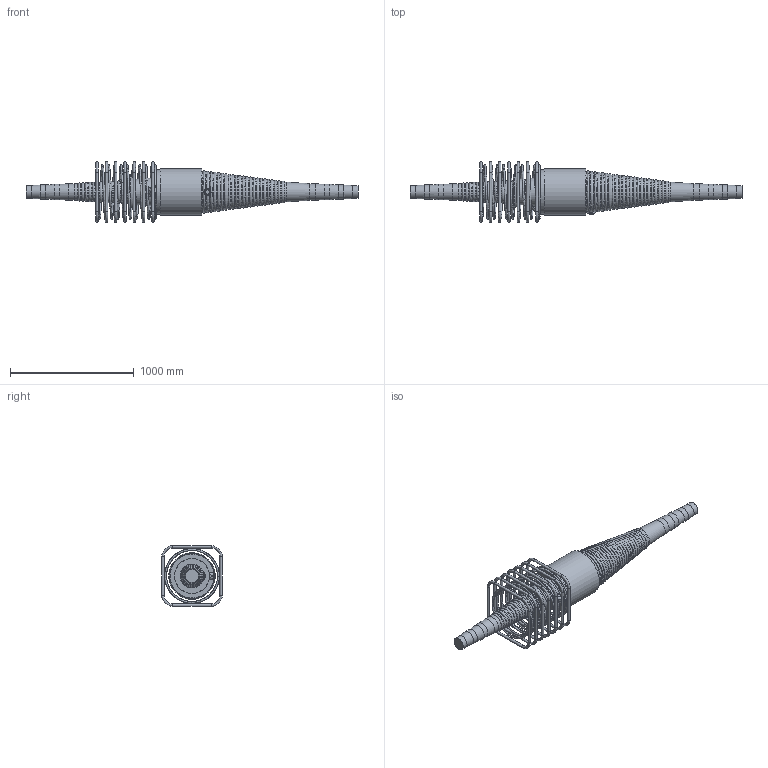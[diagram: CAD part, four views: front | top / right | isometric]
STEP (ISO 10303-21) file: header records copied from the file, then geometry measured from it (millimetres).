
FILE_DESCRIPTION(/* description */ (''),/* implementation_level */ '2;1');
FILE_NAME(/* name */ 'Z:\04 Publications\05 Give-out\BBR\6_3D_Models\BBR VT CONA CMI\BBR VT CONA CMI BT\02706\BBR VT CONA CMI BT 2706_Coupler H Assembly_CS-34,28.stp',/* time_stamp */ '2017-05-05T10:35:52+02:00',/* author */ ('IP'),/* organization */ (''),/* preprocessor_version */ 'ST-DEVELOPER v16.1',/* originating_system */ 'Autodesk Inventor 2016',/* authorisation */ '');
FILE_SCHEMA (('AUTOMOTIVE_DESIGN { 1 0 10303 214 3 1 1 }'));
Products named in the file (1): BBR VT CONA CMI BT 2706_Coupler H Assembly_CS-34,28
Bounding box: 2678.22 x 490 x 490 mm (x, y, z)
Volume: 111565756 mm3; surface area: 3374775.5 mm2
Topology: 9 solids, 9 shells, 1007 faces, 2535 edges, 1595 vertices
Faces by surface type: bspline 403, plane 265, torus 170, cylinder 118, cone 41, sphere 10
Full cylindrical faces by diameter (mm): 20 x28, 34 x1, 34.089 x1, 57 x1, 57.089 x1, 104 x2, 114 x2, 124 x2, 134 x2, 208 x1, 279 x1, 283 x1, 360 x1, 375 x1
Entity records: 43512 total; most frequent: CARTESIAN_POINT 22375, ORIENTED_EDGE 4568, DIRECTION 3246, EDGE_CURVE 2284, VERTEX_POINT 1585, EDGE_LOOP 1313, AXIS2_PLACEMENT_3D 1171, FACE_OUTER_BOUND 1007
